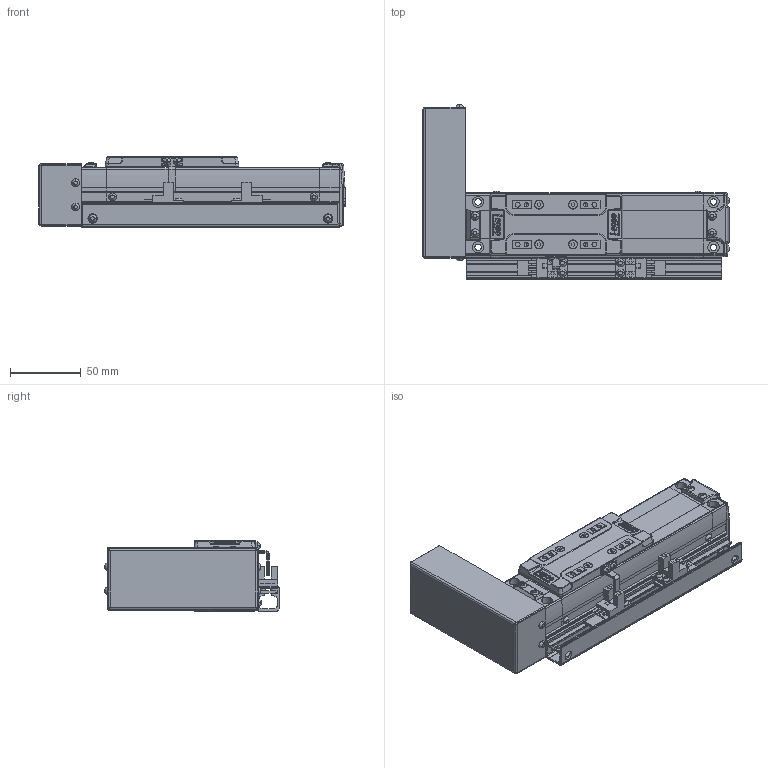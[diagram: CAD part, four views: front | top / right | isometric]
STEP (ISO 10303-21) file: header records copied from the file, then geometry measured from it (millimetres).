
FILE_DESCRIPTION(('STEP AP214'),'1');
FILE_NAME('Z:/Web/3D/SAN45/2013.ver/STP/SAN45-50PL+3SR.stp','2013-05-14T06:40:21',(' '),(' '),'Spatial InterOp 3D',' ',' ');
FILE_SCHEMA(('automotive_design'));
Length unit declared in the file: millimetre
Products named in the file (42): BODY-SAN45; REAR-SAN45; RRCV-SAN45; BHCS M3 x 6L; BHCS M3 X 6L; FRONT-SAN45; SHAFT; RN8 x 0.75; SSFX-SAN45; SLIDE-SAN45; SLCV-IM45; FHCS M3 x 6L; BTCV-SAN45; SRL-16x17-380L; EE-SX674; SBK-SX674-352; SDG-SA45; SCREW M3 x 5L
Bounding box: 216.15 x 123.06 x 50 mm (x, y, z)
Volume: 497572.7 mm3; surface area: 125784 mm2
Topology: 42 solids, 42 shells, 2194 faces, 5673 edges, 3644 vertices
Faces by surface type: plane 1199, cylinder 701, cone 132, sphere 80, bspline 44, torus 32, extrusion 6
Entity records: 89205 total; most frequent: CARTESIAN_POINT 16135, DIRECTION 11822, ORIENTED_EDGE 11226, EDGE_CURVE 5613, AXIS2_PLACEMENT_3D 4144, VERTEX_POINT 3644, VECTOR 3534, LINE 3528
